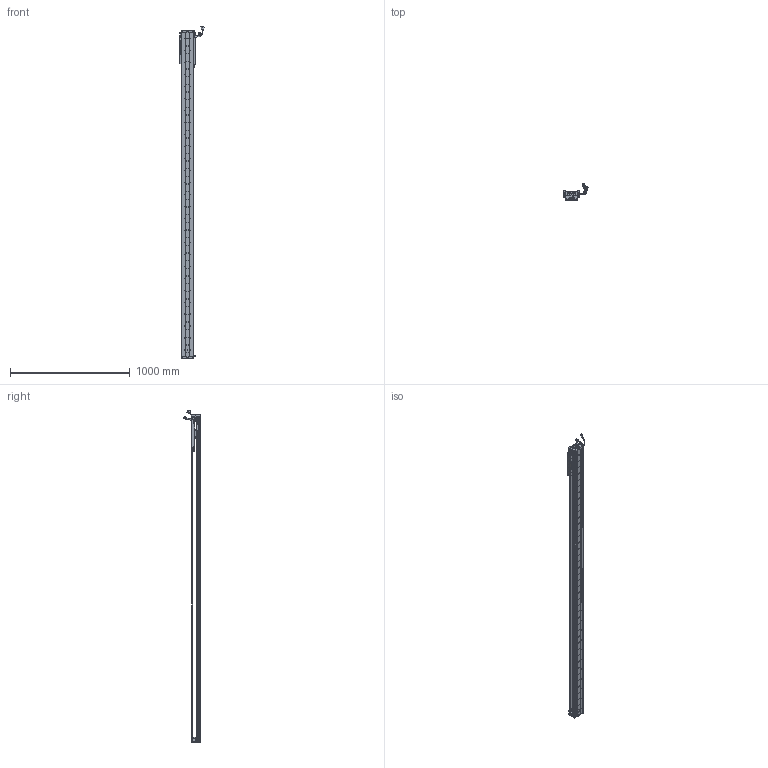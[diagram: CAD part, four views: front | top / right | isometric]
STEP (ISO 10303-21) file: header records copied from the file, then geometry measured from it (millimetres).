
FILE_DESCRIPTION (( 'STEP AP203' ), '1' );
FILE_NAME ('Z3-RY100D-1-L500-B-K.SLDASM_2400.step', '2021-05-17T02:52:18', ( '盈信电脑' ), ( '东莞市道滘镇水果街19号' ), 'SwSTEP 2.0', 'SolidWorks 2016', '' );
FILE_SCHEMA (( 'CONFIG_CONTROL_DESIGN' ));
Length unit declared in the file: millimetre
Products named in the file (36): LABEL; PSLH080_PSLF2; 080黍杅芛假蚾釱21遴; COVER; SCREW-M1.6-2; Z3-RY100D-1-L500-B-K.SLDASM_2400; Z3-RY100铝滑块（21款）; SCREW-M1.6; Z-RY100D覜茼んえ; COVER-Part-1; HARNESS-Part-2; LABEL-Part-1; 覜茼ん672; SCALE-Part-1; SCREW-M1.6-1; Z-100詩湍傷裔啣; SCALE; Z3-RY100D-500-倰第菁釱_2400; HARNESS-Part-1; HOLDER0; 100-Z-臏賑輸盄裔(21遴); SCREW-M1.6-3; SEAL-Part-1; SCREW-M1.7-1; 140蚥薯蝶輸; 榋妏寠巭燃_暯_M2_2; SHIELDPLATE; SCREW-M1.7; PBU_SHEET; HARNESS; Z-RY100D詩湍奻揤裔; Z3-RY100-L500詩湍90mm遵_2400; Z-RY100D詩湍狟揤裔; SEAL; 140雄赽晤鎢ん堤盄; SCALE-Part-2
Assembly tree (43 placements, depth 4):
  Z3-RY100D-1-L500-B-K.SLDASM_2400
    Z3-RY100D-500-倰第菁釱_2400
    Z3-RY100铝滑块（21款）
    PSLH080_PSLF2
      SCALE
        SCALE-Part-1
        SCALE-Part-2
      HARNESS
        HARNESS-Part-1
        HARNESS-Part-2
      LABEL
        LABEL-Part-1
      COVER
        COVER-Part-1
      SEAL
        SEAL-Part-1
      榋妏寠巭燃_暯_M2_2
      SHIELDPLATE
      SCREW-M1.7
      SCREW-M1.7-1
      PBU_SHEET
      SCREW-M1.6
      SCREW-M1.6-1
      SCREW-M1.6-2
      SCREW-M1.6-3
      HOLDER0
    080黍杅芛假蚾釱21遴
    Z-100詩湍傷裔啣  x2
    140蚥薯蝶輸  x2
    覜茼ん672  x3
    Z-RY100D覜茼んえ  x3
    100-Z-臏賑輸盄裔(21遴)
    140雄赽晤鎢ん堤盄
    Z3-RY100-L500詩湍90mm遵_2400
    Z-RY100D詩湍狟揤裔  x2
    Z-RY100D詩湍奻揤裔  x2
Bounding box: 205.79 x 136.11 x 2770.43 mm (x, y, z)
Volume: 5056340.4 mm3; surface area: 1992302 mm2
Topology: 38 solids, 38 shells, 3029 faces, 8275 edges, 5284 vertices
Faces by surface type: cylinder 1494, plane 1187, cone 226, torus 69, bspline 53
Entity records: 87869 total; most frequent: CARTESIAN_POINT 18393, DIRECTION 14181, ORIENTED_EDGE 13430, EDGE_CURVE 6715, AXIS2_PLACEMENT_3D 5336, VERTEX_POINT 4352, VECTOR 3509, LINE 3509
